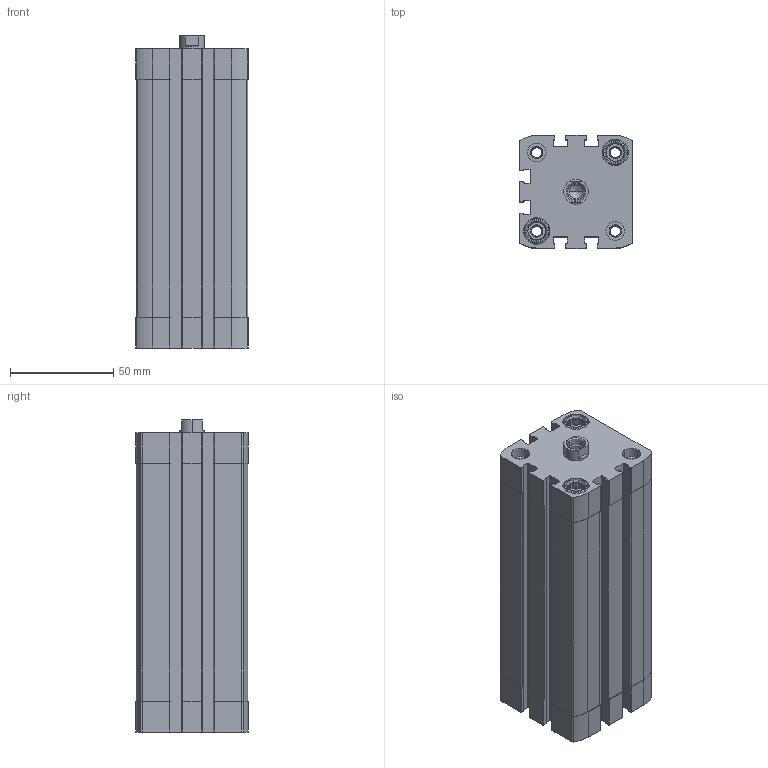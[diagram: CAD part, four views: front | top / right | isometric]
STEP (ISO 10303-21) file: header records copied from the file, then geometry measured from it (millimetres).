
FILE_DESCRIPTION (( 'STEP AP203' ), '1' );
FILE_NAME ('CCN40-100F.STEP', '2017-03-29T18:37:34', ( '' ), ( '' ), 'SwSTEP 2.0', 'SolidWorks 2016', '' );
FILE_SCHEMA (( 'CONFIG_CONTROL_DESIGN' ));
Length unit declared in the file: millimetre
Products named in the file (3): CCN-100---(Z); CCN-100_(KS); CCN40-100F
Assembly tree (2 placements, depth 2):
  CCN40-100F
    CCN-100---(Z)
    CCN-100_(KS)
Bounding box: 54.5 x 54.5 x 151.1 mm (x, y, z)
Volume: 258856.4 mm3; surface area: 85721.8 mm2
Topology: 2 solids, 2 shells, 479 faces, 1300 edges, 855 vertices
Faces by surface type: plane 267, cylinder 170, cone 42
Entity records: 15609 total; most frequent: CARTESIAN_POINT 2931, DIRECTION 2656, ORIENTED_EDGE 2596, EDGE_CURVE 1298, AXIS2_PLACEMENT_3D 972, VERTEX_POINT 855, LINE 712, VECTOR 712
